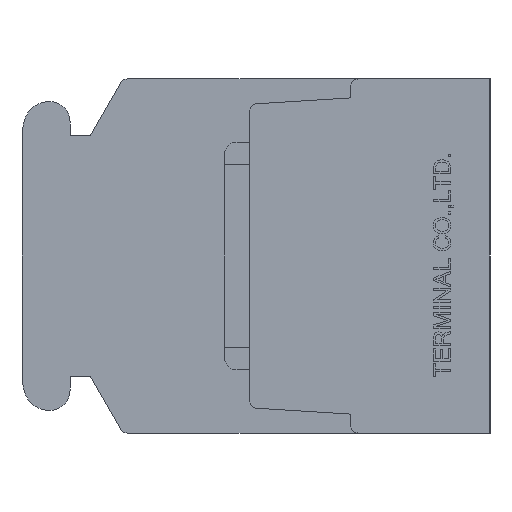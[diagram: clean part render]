
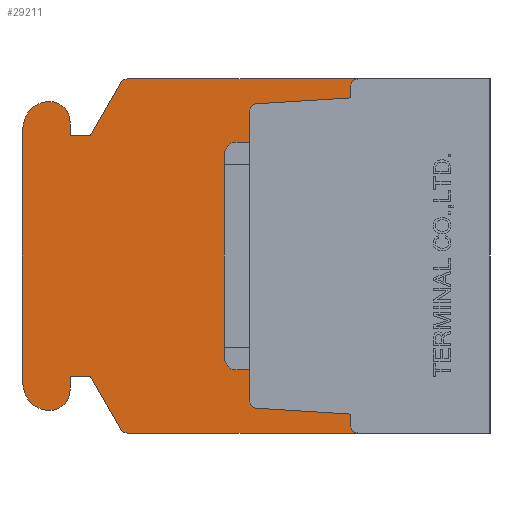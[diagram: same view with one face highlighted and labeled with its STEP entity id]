
A CAD part, left-side view. The second image highlights one B-rep face of the part: STEP entity #29211.
In plain terms, the highlighted planar face has unit normal (-1, 0, 0).
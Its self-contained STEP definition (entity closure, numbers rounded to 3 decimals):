
#576=CIRCLE('',#29656,0.3);
#577=CIRCLE('',#29660,0.3);
#578=CIRCLE('',#29662,0.3);
#579=CIRCLE('',#29666,0.3);
#1161=CIRCLE('',#31397,0.3);
#1162=CIRCLE('',#31398,0.8);
#1163=CIRCLE('',#31399,1.);
#1164=CIRCLE('',#31400,2.);
#1165=CIRCLE('',#31401,2.);
#1166=CIRCLE('',#31402,1.);
#1167=CIRCLE('',#31403,0.8);
#1168=CIRCLE('',#31404,0.3);
#1580=VERTEX_POINT('',#38197);
#1581=VERTEX_POINT('',#38198);
#1934=VERTEX_POINT('',#39719);
#1935=VERTEX_POINT('',#39723);
#1936=VERTEX_POINT('',#39727);
#1937=VERTEX_POINT('',#39731);
#1938=VERTEX_POINT('',#39735);
#1939=VERTEX_POINT('',#39736);
#1940=VERTEX_POINT('',#39741);
#1941=VERTEX_POINT('',#39745);
#3768=VERTEX_POINT('',#45123);
#3787=VERTEX_POINT('',#45198);
#4117=VERTEX_POINT('',#46356);
#4118=VERTEX_POINT('',#46358);
#4119=VERTEX_POINT('',#46360);
#4120=VERTEX_POINT('',#46362);
#4121=VERTEX_POINT('',#46364);
#4122=VERTEX_POINT('',#46366);
#4123=VERTEX_POINT('',#46368);
#4124=VERTEX_POINT('',#46370);
#4125=VERTEX_POINT('',#46372);
#4126=VERTEX_POINT('',#46374);
#4127=VERTEX_POINT('',#46376);
#4128=VERTEX_POINT('',#46378);
#4129=VERTEX_POINT('',#46380);
#4130=VERTEX_POINT('',#46382);
#4131=VERTEX_POINT('',#46384);
#4132=VERTEX_POINT('',#46386);
#4570=VECTOR('',#31704,1.);
#4979=VECTOR('',#32260,1.);
#4981=VECTOR('',#32263,1.);
#4986=VECTOR('',#32277,1.);
#4988=VECTOR('',#32280,1.);
#6810=VECTOR('',#36301,1.);
#6839=VECTOR('',#36372,1.);
#7291=VECTOR('',#37272,1.);
#7292=VECTOR('',#37273,1.);
#7293=VECTOR('',#37274,1.);
#7294=VECTOR('',#37277,1.);
#7295=VECTOR('',#37282,1.);
#7296=VECTOR('',#37287,1.);
#7297=VECTOR('',#37290,1.);
#7298=VECTOR('',#37291,1.);
#7299=VECTOR('',#37292,1.);
#7800=LINE('',#38196,#4570);
#8209=LINE('',#39722,#4979);
#8211=LINE('',#39726,#4981);
#8216=LINE('',#39740,#4986);
#8218=LINE('',#39744,#4988);
#10040=LINE('',#45124,#6810);
#10069=LINE('',#45197,#6839);
#10521=LINE('',#46357,#7291);
#10522=LINE('',#46359,#7292);
#10523=LINE('',#46361,#7293);
#10524=LINE('',#46365,#7294);
#10525=LINE('',#46371,#7295);
#10526=LINE('',#46377,#7296);
#10527=LINE('',#46381,#7297);
#10528=LINE('',#46383,#7298);
#10529=LINE('',#46385,#7299);
#11030=EDGE_CURVE('',#1580,#1581,#7800,.T.);
#11548=EDGE_CURVE('',#1934,#1580,#576,.T.);
#11550=EDGE_CURVE('',#1935,#1934,#8209,.T.);
#11552=EDGE_CURVE('',#1936,#1935,#8211,.T.);
#11554=EDGE_CURVE('',#1937,#1936,#577,.T.);
#11556=EDGE_CURVE('',#1938,#1939,#578,.T.);
#11559=EDGE_CURVE('',#1940,#1938,#8216,.T.);
#11561=EDGE_CURVE('',#1941,#1940,#8218,.T.);
#11563=EDGE_CURVE('',#1581,#1941,#579,.T.);
#14125=EDGE_CURVE('',#3768,#1939,#10040,.T.);
#14162=EDGE_CURVE('',#1937,#3787,#10069,.T.);
#14828=EDGE_CURVE('',#4117,#3768,#1161,.T.);
#14829=EDGE_CURVE('',#4118,#4117,#10521,.T.);
#14830=EDGE_CURVE('',#4119,#4118,#10522,.T.);
#14831=EDGE_CURVE('',#4120,#4119,#10523,.T.);
#14832=EDGE_CURVE('',#4121,#4120,#1162,.T.);
#14833=EDGE_CURVE('',#4122,#4121,#10524,.T.);
#14834=EDGE_CURVE('',#4123,#4122,#1163,.T.);
#14835=EDGE_CURVE('',#4124,#4123,#1164,.T.);
#14836=EDGE_CURVE('',#4125,#4124,#10525,.T.);
#14837=EDGE_CURVE('',#4126,#4125,#1165,.T.);
#14838=EDGE_CURVE('',#4127,#4126,#1166,.T.);
#14839=EDGE_CURVE('',#4128,#4127,#10526,.T.);
#14840=EDGE_CURVE('',#4129,#4128,#1167,.T.);
#14841=EDGE_CURVE('',#4130,#4129,#10527,.T.);
#14842=EDGE_CURVE('',#4131,#4130,#10528,.T.);
#14843=EDGE_CURVE('',#4132,#4131,#10529,.T.);
#14844=EDGE_CURVE('',#3787,#4132,#1168,.T.);
#23038=ORIENTED_EDGE('',*,*,#11556,.T.);
#23039=ORIENTED_EDGE('',*,*,#14125,.F.);
#23040=ORIENTED_EDGE('',*,*,#14828,.F.);
#23041=ORIENTED_EDGE('',*,*,#14829,.F.);
#23042=ORIENTED_EDGE('',*,*,#14830,.F.);
#23043=ORIENTED_EDGE('',*,*,#14831,.F.);
#23044=ORIENTED_EDGE('',*,*,#14832,.F.);
#23045=ORIENTED_EDGE('',*,*,#14833,.F.);
#23046=ORIENTED_EDGE('',*,*,#14834,.F.);
#23047=ORIENTED_EDGE('',*,*,#14835,.F.);
#23048=ORIENTED_EDGE('',*,*,#14836,.F.);
#23049=ORIENTED_EDGE('',*,*,#14837,.F.);
#23050=ORIENTED_EDGE('',*,*,#14838,.F.);
#23051=ORIENTED_EDGE('',*,*,#14839,.F.);
#23052=ORIENTED_EDGE('',*,*,#14840,.F.);
#23053=ORIENTED_EDGE('',*,*,#14841,.F.);
#23054=ORIENTED_EDGE('',*,*,#14842,.F.);
#23055=ORIENTED_EDGE('',*,*,#14843,.F.);
#23056=ORIENTED_EDGE('',*,*,#14844,.F.);
#23057=ORIENTED_EDGE('',*,*,#14162,.F.);
#23058=ORIENTED_EDGE('',*,*,#11554,.T.);
#23059=ORIENTED_EDGE('',*,*,#11552,.T.);
#23060=ORIENTED_EDGE('',*,*,#11550,.T.);
#23061=ORIENTED_EDGE('',*,*,#11548,.T.);
#23062=ORIENTED_EDGE('',*,*,#11030,.T.);
#23063=ORIENTED_EDGE('',*,*,#11563,.T.);
#23064=ORIENTED_EDGE('',*,*,#11561,.T.);
#23065=ORIENTED_EDGE('',*,*,#11559,.T.);
#25851=EDGE_LOOP('',(#23038,#23039,#23040,#23041,#23042,#23043,#23044,#23045,
#23046,#23047,#23048,#23049,#23050,#23051,#23052,#23053,#23054,#23055,#23056,
#23057,#23058,#23059,#23060,#23061,#23062,#23063,#23064,#23065));
#27583=FACE_BOUND('',#25851,.T.);
#29211=ADVANCED_FACE('',(#27583),#49136,.F.);
#29656=AXIS2_PLACEMENT_3D('',#39718,#32256,#32257);
#29660=AXIS2_PLACEMENT_3D('',#39730,#32267,#32268);
#29662=AXIS2_PLACEMENT_3D('',#39734,#32272,#32273);
#29666=AXIS2_PLACEMENT_3D('',#39748,#32284,#32285);
#31396=AXIS2_PLACEMENT_3D('',#46354,#37269,$);
#31397=AXIS2_PLACEMENT_3D('',#46355,#37270,#37271);
#31398=AXIS2_PLACEMENT_3D('',#46363,#37275,#37276);
#31399=AXIS2_PLACEMENT_3D('',#46367,#37278,#37279);
#31400=AXIS2_PLACEMENT_3D('',#46369,#37280,#37281);
#31401=AXIS2_PLACEMENT_3D('',#46373,#37283,#37284);
#31402=AXIS2_PLACEMENT_3D('',#46375,#37285,#37286);
#31403=AXIS2_PLACEMENT_3D('',#46379,#37288,#37289);
#31404=AXIS2_PLACEMENT_3D('',#46387,#37293,#37294);
#31704=DIRECTION('',(0.,0.,1.));
#32256=DIRECTION('',(1.,0.,0.));
#32257=DIRECTION('',(0.,0.,-0.3));
#32260=DIRECTION('',(0.,0.998,0.062));
#32263=DIRECTION('',(0.,0.,1.));
#32267=DIRECTION('',(1.,0.,0.));
#32268=DIRECTION('',(0.,0.,-0.3));
#32272=DIRECTION('',(1.,0.,0.));
#32273=DIRECTION('',(0.,0.,-0.3));
#32277=DIRECTION('',(0.,0.,1.));
#32280=DIRECTION('',(0.,-0.998,0.062));
#32284=DIRECTION('',(1.,0.,0.));
#32285=DIRECTION('',(0.,0.,-0.3));
#36301=DIRECTION('',(0.,-1.,0.));
#36372=DIRECTION('',(0.,1.,0.));
#37269=DIRECTION('',(1.,0.,0.));
#37270=DIRECTION('',(1.,0.,0.));
#37271=DIRECTION('',(0.,0.,-0.3));
#37272=DIRECTION('',(0.,-0.5,0.866));
#37273=DIRECTION('',(0.,-1.,0.));
#37274=DIRECTION('',(0.,0.,-1.));
#37275=DIRECTION('',(1.,0.,0.));
#37276=DIRECTION('',(0.,0.,-0.8));
#37277=DIRECTION('',(0.,-1.,0.));
#37278=DIRECTION('',(1.,0.,0.));
#37279=DIRECTION('',(0.,0.,-1.));
#37280=DIRECTION('',(1.,0.,0.));
#37281=DIRECTION('',(0.,0.,-2.));
#37282=DIRECTION('',(0.,0.,1.));
#37283=DIRECTION('',(1.,0.,0.));
#37284=DIRECTION('',(0.,0.,-2.));
#37285=DIRECTION('',(1.,0.,0.));
#37286=DIRECTION('',(0.,0.,-1.));
#37287=DIRECTION('',(0.,1.,0.));
#37288=DIRECTION('',(1.,0.,0.));
#37289=DIRECTION('',(0.,0.,-0.8));
#37290=DIRECTION('',(0.,0.,-1.));
#37291=DIRECTION('',(0.,1.,0.));
#37292=DIRECTION('',(0.,0.5,0.866));
#37293=DIRECTION('',(1.,0.,0.));
#37294=DIRECTION('',(0.,0.,-0.3));
#38196=CARTESIAN_POINT('',(8.15,9.5,0.));
#38197=CARTESIAN_POINT('',(8.15,9.5,-5.718));
#38198=CARTESIAN_POINT('',(8.15,9.5,5.718));
#39718=CARTESIAN_POINT('',(8.15,9.2,-5.718));
#39719=CARTESIAN_POINT('',(8.15,9.219,-6.018));
#39722=CARTESIAN_POINT('',(8.15,8.522,-6.061));
#39723=CARTESIAN_POINT('',(8.15,5.5,-6.25));
#39726=CARTESIAN_POINT('',(8.15,5.5,-3.237));
#39727=CARTESIAN_POINT('',(8.15,5.5,-6.7));
#39730=CARTESIAN_POINT('',(8.15,5.2,-6.7));
#39731=CARTESIAN_POINT('',(8.15,5.2,-7.));
#39734=CARTESIAN_POINT('',(8.15,5.2,6.7));
#39735=CARTESIAN_POINT('',(8.15,5.5,6.7));
#39736=CARTESIAN_POINT('',(8.15,5.2,7.));
#39740=CARTESIAN_POINT('',(8.15,5.5,3.238));
#39741=CARTESIAN_POINT('',(8.15,5.5,6.25));
#39744=CARTESIAN_POINT('',(8.15,8.522,6.061));
#39745=CARTESIAN_POINT('',(8.15,9.219,6.018));
#39748=CARTESIAN_POINT('',(8.15,9.2,5.718));
#45123=CARTESIAN_POINT('',(8.15,14.327,7.));
#45124=CARTESIAN_POINT('',(8.15,14.327,7.));
#45197=CARTESIAN_POINT('',(8.15,0.,-7.));
#45198=CARTESIAN_POINT('',(8.15,14.327,-7.));
#46354=CARTESIAN_POINT('',(8.15,9.311,0.));
#46355=CARTESIAN_POINT('',(8.15,14.327,6.7));
#46356=CARTESIAN_POINT('',(8.15,14.587,6.85));
#46357=CARTESIAN_POINT('',(8.15,15.8,4.75));
#46358=CARTESIAN_POINT('',(8.15,15.8,4.75));
#46359=CARTESIAN_POINT('',(8.15,16.6,4.75));
#46360=CARTESIAN_POINT('',(8.15,16.6,4.75));
#46361=CARTESIAN_POINT('',(8.15,16.6,5.3));
#46362=CARTESIAN_POINT('',(8.15,16.6,5.3));
#46363=CARTESIAN_POINT('',(8.15,17.4,5.3));
#46364=CARTESIAN_POINT('',(8.15,17.4,6.1));
#46365=CARTESIAN_POINT('',(8.15,17.437,6.1));
#46366=CARTESIAN_POINT('',(8.15,17.437,6.1));
#46367=CARTESIAN_POINT('',(8.15,17.437,5.1));
#46368=CARTESIAN_POINT('',(8.15,18.373,5.45));
#46369=CARTESIAN_POINT('',(8.15,16.5,4.75));
#46370=CARTESIAN_POINT('',(8.15,18.5,4.75));
#46371=CARTESIAN_POINT('',(8.15,18.5,-4.75));
#46372=CARTESIAN_POINT('',(8.15,18.5,-4.75));
#46373=CARTESIAN_POINT('',(8.15,16.5,-4.75));
#46374=CARTESIAN_POINT('',(8.15,18.373,-5.45));
#46375=CARTESIAN_POINT('',(8.15,17.437,-5.1));
#46376=CARTESIAN_POINT('',(8.15,17.437,-6.1));
#46377=CARTESIAN_POINT('',(8.15,17.4,-6.1));
#46378=CARTESIAN_POINT('',(8.15,17.4,-6.1));
#46379=CARTESIAN_POINT('',(8.15,17.4,-5.3));
#46380=CARTESIAN_POINT('',(8.15,16.6,-5.3));
#46381=CARTESIAN_POINT('',(8.15,16.6,-4.75));
#46382=CARTESIAN_POINT('',(8.15,16.6,-4.75));
#46383=CARTESIAN_POINT('',(8.15,15.8,-4.75));
#46384=CARTESIAN_POINT('',(8.15,15.8,-4.75));
#46385=CARTESIAN_POINT('',(8.15,14.587,-6.85));
#46386=CARTESIAN_POINT('',(8.15,14.587,-6.85));
#46387=CARTESIAN_POINT('',(8.15,14.327,-6.7));
#49136=PLANE('',#31396);
